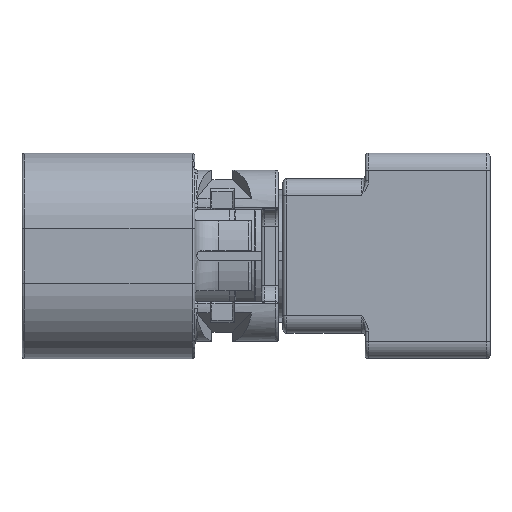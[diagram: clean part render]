
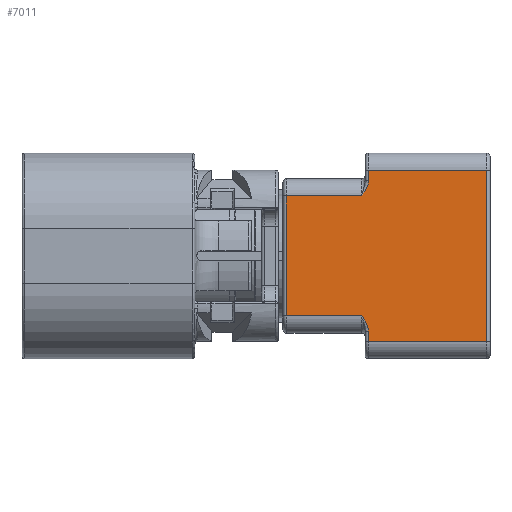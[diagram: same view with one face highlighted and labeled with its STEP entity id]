
A CAD part, top view. The second image highlights one B-rep face of the part: STEP entity #7011.
In plain terms, the highlighted planar face has unit normal (0, 0, 1).
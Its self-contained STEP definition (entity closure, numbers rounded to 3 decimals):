
#6360=PLANE('',#21221);
#7011=ADVANCED_FACE('',(#8091),#6360,.T.);
#8091=FACE_OUTER_BOUND('',#8914,.T.);
#8914=EDGE_LOOP('',(#15119,#15120,#15121,#15122,#15123,#15124,#15125,#15126,
#15127,#15128));
#10814=LINE('',#30964,#11996);
#10818=LINE('',#30976,#12000);
#10825=LINE('',#31008,#12007);
#10826=LINE('',#31010,#12008);
#10827=LINE('',#31012,#12009);
#10828=LINE('',#31014,#12010);
#10829=LINE('',#31016,#12011);
#10830=LINE('',#31031,#12012);
#11996=VECTOR('',#24711,1.);
#12000=VECTOR('',#24723,1.);
#12007=VECTOR('',#24742,1.);
#12008=VECTOR('',#24743,1.);
#12009=VECTOR('',#24744,1.);
#12010=VECTOR('',#24745,1.);
#12011=VECTOR('',#24746,1.);
#12012=VECTOR('',#24747,1.);
#15119=ORIENTED_EDGE('',*,*,#19467,.F.);
#15120=ORIENTED_EDGE('',*,*,#19477,.T.);
#15121=ORIENTED_EDGE('',*,*,#19478,.T.);
#15122=ORIENTED_EDGE('',*,*,#19479,.T.);
#15123=ORIENTED_EDGE('',*,*,#19480,.T.);
#15124=ORIENTED_EDGE('',*,*,#19481,.T.);
#15125=ORIENTED_EDGE('',*,*,#19482,.T.);
#15126=ORIENTED_EDGE('',*,*,#19483,.T.);
#15127=ORIENTED_EDGE('',*,*,#19461,.T.);
#15128=ORIENTED_EDGE('',*,*,#19484,.T.);
#17582=VERTEX_POINT('',#30963);
#17583=VERTEX_POINT('',#30965);
#17587=VERTEX_POINT('',#30977);
#17588=VERTEX_POINT('',#30978);
#17592=VERTEX_POINT('',#31007);
#17593=VERTEX_POINT('',#31009);
#17594=VERTEX_POINT('',#31011);
#17595=VERTEX_POINT('',#31013);
#17596=VERTEX_POINT('',#31015);
#17597=VERTEX_POINT('',#31017);
#19461=EDGE_CURVE('',#17583,#17582,#10814,.T.);
#19467=EDGE_CURVE('',#17587,#17588,#10818,.T.);
#19477=EDGE_CURVE('',#17587,#17592,#20146,.T.);
#19478=EDGE_CURVE('',#17592,#17593,#10825,.T.);
#19479=EDGE_CURVE('',#17593,#17594,#10826,.T.);
#19480=EDGE_CURVE('',#17594,#17595,#10827,.T.);
#19481=EDGE_CURVE('',#17595,#17596,#10828,.T.);
#19482=EDGE_CURVE('',#17596,#17597,#10829,.T.);
#19483=EDGE_CURVE('',#17597,#17583,#20147,.T.);
#19484=EDGE_CURVE('',#17582,#17588,#10830,.T.);
#20146=B_SPLINE_CURVE_WITH_KNOTS('',3,(#30994,#30995,#30996,#30997,#30998,
#30999,#31000,#31001,#31002,#31003,#31004,#31005,#31006),.UNSPECIFIED.,.F.,
 .F.,(4,3,3,3,4),(0.,0.006,0.098,0.718,
1.),.UNSPECIFIED.);
#20147=B_SPLINE_CURVE_WITH_KNOTS('',3,(#31018,#31019,#31020,#31021,#31022,
#31023,#31024,#31025,#31026,#31027,#31028,#31029,#31030),.UNSPECIFIED.,.F.,
 .F.,(4,3,3,3,4),(0.,0.282,0.902,0.994,
1.),.UNSPECIFIED.);
#21221=AXIS2_PLACEMENT_3D('',#31032,#24748,#24749);
#24711=DIRECTION('',(-1.,0.,0.));
#24723=DIRECTION('',(-1.,0.,0.));
#24742=DIRECTION('',(0.,-1.,0.));
#24743=DIRECTION('',(1.,0.,0.));
#24744=DIRECTION('',(0.,1.,0.));
#24745=DIRECTION('',(-1.,0.,0.));
#24746=DIRECTION('',(0.,-1.,0.));
#24747=DIRECTION('',(0.,-1.,0.));
#24748=DIRECTION('',(0.,0.,1.));
#24749=DIRECTION('',(0.,-1.,0.));
#30963=CARTESIAN_POINT('',(21.472,-20.653,2.545));
#30964=CARTESIAN_POINT('',(22.172,-20.653,2.545));
#30965=CARTESIAN_POINT('',(25.872,-20.653,2.545));
#30976=CARTESIAN_POINT('',(22.172,-27.653,2.545));
#30977=CARTESIAN_POINT('',(25.872,-27.653,2.545));
#30978=CARTESIAN_POINT('',(21.472,-27.653,2.545));
#30994=CARTESIAN_POINT('',(25.872,-27.653,2.545));
#30995=CARTESIAN_POINT('',(25.874,-27.655,2.545));
#30996=CARTESIAN_POINT('',(25.875,-27.656,2.545));
#30997=CARTESIAN_POINT('',(25.876,-27.658,2.545));
#30998=CARTESIAN_POINT('',(25.894,-27.683,2.545));
#30999=CARTESIAN_POINT('',(25.911,-27.708,2.545));
#31000=CARTESIAN_POINT('',(25.929,-27.733,2.545));
#31001=CARTESIAN_POINT('',(26.046,-27.901,2.545));
#31002=CARTESIAN_POINT('',(26.161,-28.077,2.545));
#31003=CARTESIAN_POINT('',(26.225,-28.271,2.545));
#31004=CARTESIAN_POINT('',(26.254,-28.36,2.545));
#31005=CARTESIAN_POINT('',(26.272,-28.454,2.545));
#31006=CARTESIAN_POINT('',(26.272,-28.548,2.545));
#31007=CARTESIAN_POINT('',(26.272,-28.548,2.545));
#31008=CARTESIAN_POINT('',(26.272,-29.153,2.545));
#31009=CARTESIAN_POINT('',(26.272,-29.153,2.545));
#31010=CARTESIAN_POINT('',(33.372,-29.153,2.545));
#31011=CARTESIAN_POINT('',(33.172,-29.153,2.545));
#31012=CARTESIAN_POINT('',(33.172,-27.653,2.545));
#31013=CARTESIAN_POINT('',(33.172,-19.153,2.545));
#31014=CARTESIAN_POINT('',(26.072,-19.153,2.545));
#31015=CARTESIAN_POINT('',(26.272,-19.153,2.545));
#31016=CARTESIAN_POINT('',(26.272,-27.653,2.545));
#31017=CARTESIAN_POINT('',(26.272,-19.759,2.545));
#31018=CARTESIAN_POINT('',(26.272,-19.759,2.545));
#31019=CARTESIAN_POINT('',(26.272,-19.852,2.545));
#31020=CARTESIAN_POINT('',(26.254,-19.947,2.545));
#31021=CARTESIAN_POINT('',(26.225,-20.036,2.545));
#31022=CARTESIAN_POINT('',(26.161,-20.23,2.545));
#31023=CARTESIAN_POINT('',(26.046,-20.406,2.545));
#31024=CARTESIAN_POINT('',(25.929,-20.573,2.545));
#31025=CARTESIAN_POINT('',(25.911,-20.598,2.545));
#31026=CARTESIAN_POINT('',(25.894,-20.623,2.545));
#31027=CARTESIAN_POINT('',(25.876,-20.649,2.545));
#31028=CARTESIAN_POINT('',(25.875,-20.65,2.545));
#31029=CARTESIAN_POINT('',(25.874,-20.652,2.545));
#31030=CARTESIAN_POINT('',(25.872,-20.653,2.545));
#31031=CARTESIAN_POINT('',(21.472,-27.653,2.545));
#31032=CARTESIAN_POINT('',(22.172,-27.653,2.545));
